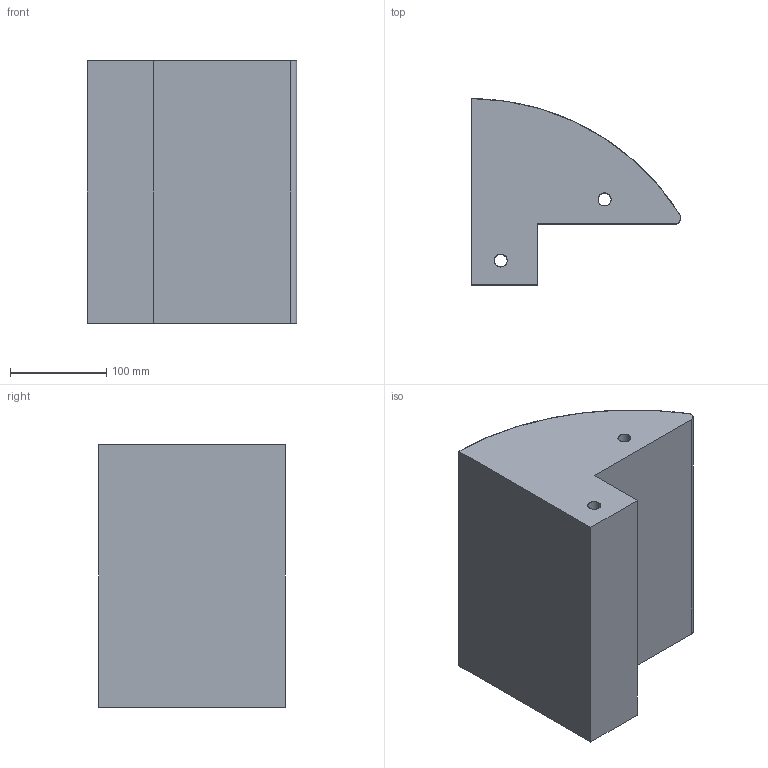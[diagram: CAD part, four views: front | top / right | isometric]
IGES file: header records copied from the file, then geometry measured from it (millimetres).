
Start section: SolidWorks IGES FILE using analytic representation for surfaces
Global section: file name: C:\Dorado\Drawings\ExtendedBatteryMidbody\Drawings\CenterFoampackSplit2.IGS; native system: SolidWorks 2003 by SolidWorks Corporation; preprocessor: Version 5.3; author: gashler; date: 030401.134100; units: inch
Bounding box: 217.52 x 193.67 x 273.05 mm (x, y, z)
Surface area: 274394.4 mm2 (no closed solid volume)
Topology: 0 solids, 0 shells, 12 faces, 224 edges, 224 vertices
Faces by surface type: revolution 6, bspline 6
